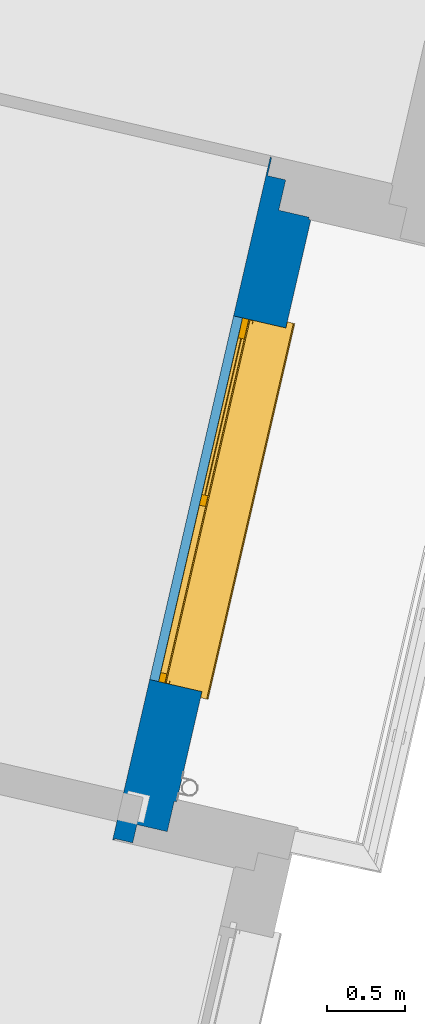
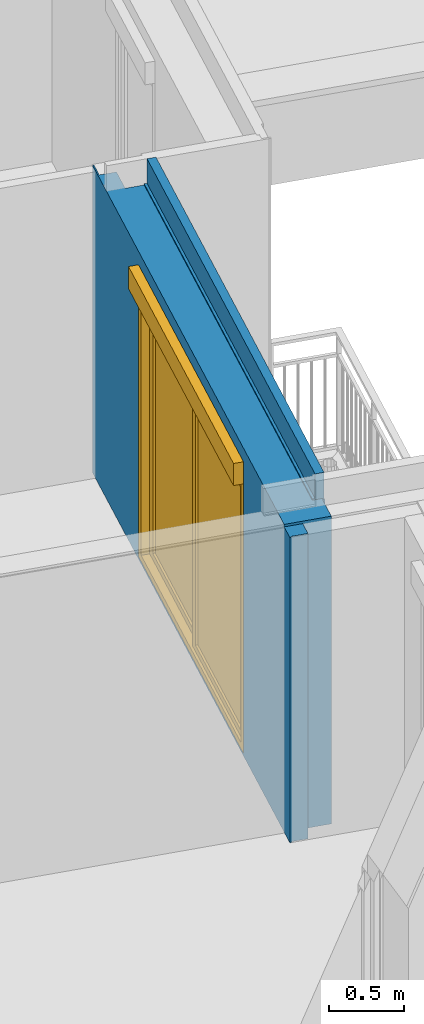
# One storey, part 20 of 90: 1 wall, 1 window, 1 opening.
"""IFC2X3 building model written with IfcOpenShell, lengths in metres."""

from ifc_helpers import new_model, entity, si_unit, converted_unit, derived_unit, money_unit, direction, frame, origin_with_axes, place, context, subcontext, project, spatial, open_shell, faceted_brep, surface_model, source, transform, mapped, material, material_list, type_object, element, fill, save


model = new_model("IFC2X3")

# Units and contexts
model_context = context("Model", 3, precision=1e-05, world=origin_with_axes(), true_north=direction((0.0, 1.0)))
body_context = subcontext(model_context, "Body", "Model", "MODEL_VIEW")
ifc_project = project(units=[si_unit("LENGTHUNIT", "METRE"), si_unit("AREAUNIT", "SQUARE_METRE"), si_unit("VOLUMEUNIT", "CUBIC_METRE"), converted_unit("PLANEANGLEUNIT", "DEGREE", entity("IfcPlaneAngleMeasure", 0.0174532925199), si_unit("PLANEANGLEUNIT", "RADIAN"), dimensions=[0, 0, 0, 0, 0, 0, 0]), si_unit("SOLIDANGLEUNIT", "STERADIAN"), money_unit("EUR"), converted_unit("TIMEUNIT", "Year", entity("IfcTimeMeasure", 31556926.0), si_unit("TIMEUNIT", "SECOND"), dimensions=[0, 0, 1, 0, 0, 0, 0]), si_unit("MASSUNIT", "GRAM", prefix="KILO"), si_unit("THERMODYNAMICTEMPERATUREUNIT", "DEGREE_CELSIUS"), si_unit("LUMINOUSINTENSITYUNIT", "LUMEN"), si_unit("ENERGYUNIT", "JOULE", prefix="MEGA"), derived_unit("THERMALCONDUCTANCEUNIT", [(si_unit("POWERUNIT", "WATT"), 1), (si_unit("LENGTHUNIT", "METRE"), -1), (si_unit("THERMODYNAMICTEMPERATUREUNIT", "KELVIN"), -1)]), derived_unit("SPECIFICHEATCAPACITYUNIT", [(si_unit("ENERGYUNIT", "JOULE"), 1), (si_unit("MASSUNIT", "GRAM", prefix="KILO"), -1), (si_unit("THERMODYNAMICTEMPERATUREUNIT", "KELVIN"), -1)]), derived_unit("MASSDENSITYUNIT", [(si_unit("MASSUNIT", "GRAM", prefix="KILO"), 1), (si_unit("VOLUMEUNIT", "CUBIC_METRE"), -1)])], contexts=[model_context])

# Site, building, storey
site_placement = place(None, origin_with_axes())
site = spatial("IfcSite", under=ifc_project, at=site_placement, Name="Site", CompositionType="ELEMENT")
building_placement = place(site_placement, origin_with_axes())
building = spatial("IfcBuilding", under=site, at=building_placement, Name="Bâtiment", CompositionType="ELEMENT")
storey_placement = place(building_placement, frame((0.0, 0.0, 2.72), z_axis=(0.0, 0.0, 1.0), x_axis=(1.0, 0.0, 0.0)))
storey = spatial("IfcBuildingStorey", under=building, at=storey_placement, Name="R+1", CompositionType="ELEMENT", Elevation=2.72)

# Wall, opening, window
ifc_material_1 = material(Name="Finition ext - Crépis")
ifc_material_2 = material(Name="Béton cellulaire")
ifc_material_3 = material(Name="Mortier")
ifc_material_4 = material(Name="Bloc ELITHERM")
ifc_material_5 = material(Name="Isolation - Polystyrène extrudé")
ifc_material_6 = material(Name="Finition int - Plaque de plâtre")
ifc_material_list = material_list([ifc_material_1, ifc_material_2, ifc_material_3, ifc_material_4, ifc_material_5, ifc_material_6])
wall_type = type_object("IfcWallType", Name="Mur ALKERN + planelle 21 345 x 2720", PredefinedType="USERDEFINED")
wall_placement = place(storey_placement, frame((-7.01710271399, -13.9285111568, 0.0), z_axis=(0.0, 0.0, 1.0), x_axis=(-0.224876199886, -0.97438734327, 0.0)))
wall = element("IfcWall", 1, at=wall_placement, inside=storey, type_object=wall_type, material=ifc_material_list, Name="Mue bloc ALKERN isolé", ObjectType="SOLIDWALL", context=body_context, shape_type="Brep", body=[
    faceted_brep([(0.712503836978, -4.04570155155e-10, 0.02), (0.712503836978, 0.0, 0.0), (0.0, 0.0, 0.0), (0.0, -1.97838856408e-08, 2.51000000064), (-0.015, -4.04569266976e-10, 2.51000000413), (-0.015, -4.04568378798e-10, 2.71999999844), (3.82500767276, -1.97838869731e-08, 2.71999999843), (3.82500767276, -1.97838869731e-08, 2.51), (3.84000767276, -1.97838869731e-08, 2.51000000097), (3.84000767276, 0.0, 0.0), (3.11250383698, 0.0, 0.0), (3.11250383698, -4.04570155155e-10, 0.02), (3.11250383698, -4.04570155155e-10, 2.22), (0.712503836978, -4.04569266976e-10, 2.22), (0.712503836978, -0.0149999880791, 0.02), (0.712503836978, -0.0149999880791, 0.0), (0.712503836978, -0.0149999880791, 2.22), (0.0, -0.0149999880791, 0.0), (0.0, -0.0149999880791, 2.51000000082), (-0.0149999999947, -0.0149999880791, 2.51000000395), (-0.0149999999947, -0.0149999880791, 2.71999999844), (3.82500767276, -0.0149999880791, 2.71999999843), (3.82500767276, -0.0149999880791, 2.51000000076), (3.84000767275, -0.0149999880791, 2.51000000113), (3.84000767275, -0.0149999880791, 0.0), (3.11250383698, -0.0149999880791, 0.0), (3.11250383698, -0.0149999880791, 0.02), (3.11250383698, -0.0149999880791, 2.22)], [[[0, 1, 2, 3, 4, 5, 6, 7, 8, 9, 10, 11, 12, 13]], [[14, 15, 1, 0, 13, 16]], [[1, 15, 17, 2]], [[2, 17, 18, 3]], [[4, 3, 18, 19]], [[5, 4, 19, 20]], [[20, 21, 6, 5]], [[7, 6, 21, 22]], [[8, 7, 22, 23]], [[8, 23, 24, 9]], [[25, 10, 9, 24]], [[11, 10, 25, 26, 27, 12]], [[12, 27, 16, 13]], [[15, 14, 16, 27, 26, 25, 24, 23, 22, 21, 20, 19, 18, 17]]]),
    faceted_brep([(-0.0149999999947, -0.015, 2.51999999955), (-0.0149999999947, -0.015, 2.71999999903), (3.82500767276, -0.015, 2.71999999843), (3.82500767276, -0.015, 2.51999999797), (-0.0149999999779, -0.0629999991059, 2.71999999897), (-0.0149999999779, -0.0629999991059, 2.51999999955), (3.82500767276, -0.0629999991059, 2.71999999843), (3.82500767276, -0.0629999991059, 2.51999999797)], [[[0, 1, 2, 3]], [[4, 1, 0, 5]], [[1, 4, 6, 2]], [[7, 3, 2, 6]], [[5, 0, 3, 7]], [[4, 5, 7, 6]]]),
    faceted_brep([(-0.0149999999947, -0.015, 2.51), (-0.0149999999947, -0.015, 2.52), (3.82500767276, -0.015, 2.51999999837), (3.82500767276, -0.015, 2.51000000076), (-0.0149999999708, -0.0830000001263, 2.52), (-0.0149999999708, -0.0830000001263, 2.51), (3.82500767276, -0.0830000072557, 2.51999998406), (3.82500767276, -0.0830000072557, 2.51000000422)], [[[0, 1, 2, 3]], [[4, 1, 0, 5]], [[1, 4, 6, 2]], [[7, 3, 2, 6]], [[5, 0, 3, 7]], [[4, 5, 7, 6]]]),
    faceted_brep([(0.712503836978, -0.015, 0.02), (0.712503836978, -0.015, 0.0), (-0.0149999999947, -0.015, 0.0), (-0.0149999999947, -0.015, 2.51000000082), (4.04000768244, -0.015, 2.5100000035), (4.04000768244, -0.015, 0.0), (3.11250383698, -0.015, 0.0), (3.11250383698, -0.015, 0.02), (3.11250383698, -0.015, 2.22), (0.712503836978, -0.015, 2.22), (0.712503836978, -0.214999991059, 0.02), (0.712503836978, -0.214999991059, 0.0), (0.712503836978, -0.214999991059, 2.22), (-0.0149999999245, -0.214999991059, 0.0), (-0.0149999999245, -0.214999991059, 2.51000000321), (-0.0149999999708, -0.0829999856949, 2.51000000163), (4.04000768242, -0.0829999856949, 2.51000000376), (4.04000768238, -0.214999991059, 0.0), (4.04000768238, -0.214999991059, 2.51000000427), (3.11250383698, -0.214999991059, 0.0), (3.11250383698, -0.214999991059, 0.02), (3.11250383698, -0.214999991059, 2.22)], [[[0, 1, 2, 3, 4, 5, 6, 7, 8, 9]], [[10, 11, 1, 0, 9, 12]], [[1, 11, 13, 2]], [[14, 15, 3, 2, 13]], [[3, 15, 16, 4]], [[17, 5, 4, 16, 18]], [[19, 6, 5, 17]], [[7, 6, 19, 20, 21, 8]], [[8, 21, 12, 9]], [[11, 10, 12, 21, 20, 19, 17, 18, 14, 13]], [[15, 14, 18, 16]]]),
    faceted_brep([(0.712503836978, -0.286, 0.02), (0.712503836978, -0.286, 0.0), (0.712503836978, -0.215000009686, 0.0), (0.712503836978, -0.215000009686, 0.02), (0.712503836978, -0.215, 2.22), (0.712503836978, -0.215, 2.4), (0.712503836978, -0.335000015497, 2.4), (0.712503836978, -0.335000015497, 2.22), (0.712503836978, -0.335000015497, 0.02), (3.11250383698, -0.286, 0.02), (3.11250383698, -0.286, 0.0), (3.11250383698, -0.215000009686, 0.0), (4.16000768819, -0.215000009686, 0.0), (4.16000768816, -0.335000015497, 0.0), (-0.215000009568, -0.335000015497, 0.0), (-0.21500000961, -0.215000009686, 0.0), (3.11250383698, -0.215000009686, 0.02), (3.11250383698, -0.215, 2.22), (3.11250383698, -0.215, 2.4), (-0.21500000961, -0.215000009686, 2.51000000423), (4.04000768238, -0.215000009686, 2.51000000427), (4.04000768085, -0.215000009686, 2.49), (4.16000768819, -0.215000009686, 2.49), (3.11250383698, -0.335000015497, 2.4), (4.04000768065, -0.335000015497, 2.49), (4.04000768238, -0.335000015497, 2.51000000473), (-0.215000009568, -0.335000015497, 2.51000000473), (4.16000768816, -0.335000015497, 2.49), (3.11250383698, -0.335000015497, 2.22), (3.11250383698, -0.335000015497, 0.02)], [[[0, 1, 2, 3, 4, 5, 6, 7, 8]], [[0, 9, 10, 1]], [[10, 11, 12, 13, 14, 15, 2, 1]], [[11, 16, 17, 18, 5, 4, 3, 2, 15, 19, 20, 21, 22, 12]], [[18, 23, 6, 5]], [[24, 25, 26, 14, 13, 27], [8, 7, 6, 23, 28, 29]], [[9, 0, 8, 29]], [[16, 11, 10, 9, 29, 28, 23, 18, 17]], [[22, 27, 13, 12]], [[14, 26, 19, 15]], [[25, 20, 19, 26]], [[21, 20, 25, 24]], [[22, 21, 24, 27]]]),
    faceted_brep([(4.04000768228, -0.335000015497, 2.49), (4.17000764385, -0.335000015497, 2.49), (4.17000764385, -0.335000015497, 0.0), (-0.33500001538, -0.335000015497, 0.0), (-0.33500001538, -0.335000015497, 2.51000000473), (4.04000768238, -0.335000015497, 2.51000000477), (3.11250383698, -0.335000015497, 2.22), (3.11250383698, -0.335000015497, 2.4), (0.712503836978, -0.335000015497, 2.4), (0.712503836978, -0.335000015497, 2.22), (0.712503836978, -0.335000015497, 0.02), (3.11250383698, -0.335000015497, 0.02), (4.04000768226, -0.344999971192, 2.49), (4.17000764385, -0.34499998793, 2.49), (4.17000764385, -0.34499998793, 0.0), (-0.335000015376, -0.344999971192, 0.0), (-0.335000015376, -0.344999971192, 2.51000000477), (4.04000768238, -0.344999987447, 2.51000000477), (3.11250383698, -0.344999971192, 2.22), (3.11250383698, -0.344999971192, 2.4), (0.712503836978, -0.344999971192, 2.4), (0.712503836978, -0.344999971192, 2.22), (0.712503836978, -0.344999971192, 0.02), (3.11250383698, -0.344999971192, 0.02)], [[[0, 1, 2, 3, 4, 5], [6, 7, 8, 9, 10, 11]], [[12, 13, 1, 0]], [[14, 2, 1, 13]], [[3, 2, 14, 15]], [[4, 3, 15, 16]], [[4, 16, 17, 5]], [[17, 12, 0, 5]], [[7, 6, 18, 19]], [[8, 7, 19, 20]], [[9, 8, 20, 21]], [[9, 21, 22, 10]], [[10, 22, 23, 11]], [[18, 6, 11, 23]], [[12, 17, 16, 15, 14, 13], [19, 18, 23, 22, 21, 20]]]),
])
opening_placement = place(wall_placement, frame((1.91250383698, 0.0, 0.02), z_axis=(0.0, 0.0, 1.0), x_axis=(1.0, 0.0, 0.0)))
opening = element("IfcOpeningElement", 2, at=opening_placement, cuts=wall, Name="MEN 62", context=body_context, shape_type="Brep", body=[
    faceted_brep([(-1.2, -0.245, 0.0), (1.2, -0.245, 0.0), (1.2, -0.83499998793, 0.0), (-1.2, -0.83499998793, 0.0), (-1.2, -0.245, 2.2), (1.2, -0.245, 2.2), (1.2, -0.83499998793, 2.2), (-1.2, -0.83499998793, 2.2)], [[[0, 1, 2, 3]], [[0, 4, 5, 1]], [[1, 5, 6, 2]], [[3, 2, 6, 7]], [[4, 0, 3, 7]], [[5, 4, 7, 6]]]),
    faceted_brep([(-1.2, -0.245, 0.0), (-1.2, -0.245, 2.2), (-1.2, 0.34499998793, 2.2), (-1.2, 0.34499998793, 0.0), (1.2, -0.245, 0.0), (1.2, -0.245, 2.2), (1.2, 0.34499998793, 2.2), (1.2, 0.34499998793, 0.0)], [[[0, 1, 2, 3]], [[0, 4, 5, 1]], [[1, 5, 6, 2]], [[3, 2, 6, 7]], [[4, 0, 3, 7]], [[5, 4, 7, 6]]]),
    faceted_brep([(-1.2, -0.245, 0.0), (-1.2, -0.245, 2.2), (-1.2, 0.34499998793, 2.2), (-1.2, 0.34499998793, 0.0), (1.2, -0.245, 0.0), (1.2, -0.245, 2.2), (1.2, 0.34499998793, 2.2), (1.2, 0.34499998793, 0.0)], [[[0, 1, 2, 3]], [[0, 4, 5, 1]], [[1, 5, 6, 2]], [[3, 2, 6, 7]], [[4, 0, 3, 7]], [[5, 4, 7, 6]]]),
    faceted_brep([(-1.2, -0.215, 2.2), (1.2, -0.215, 2.2), (1.2, -0.80499998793, 2.2), (-1.2, -0.80499998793, 2.2), (-1.2, -0.215, 2.38), (1.2, -0.215, 2.38), (1.2, -0.80499998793, 2.38), (-1.2, -0.80499998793, 2.38)], [[[0, 1, 2, 3]], [[0, 4, 5, 1]], [[1, 5, 6, 2]], [[3, 2, 6, 7]], [[4, 0, 3, 7]], [[5, 4, 7, 6]]]),
    faceted_brep([(-1.2, -0.286, 0.0), (1.2, -0.286, 0.0), (1.2, 0.30399998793, 0.0), (-1.2, 0.30399998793, 0.0), (-1.2, -0.286, -0.06), (1.2, -0.286, -0.06), (1.2, 0.30399998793, -0.06), (-1.2, 0.30399998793, -0.06)], [[[0, 1, 2, 3]], [[0, 4, 5, 1]], [[1, 5, 6, 2]], [[3, 2, 6, 7]], [[4, 0, 3, 7]], [[5, 4, 7, 6]]]),
])
window_style = type_object("IfcWindowStyle", Name="Baie générique 2017 v2", ConstructionType="NOTDEFINED", OperationType="NOTDEFINED", ParameterTakesPrecedence=False, Sizeable=False)
shared_shape = source(origin_with_axes(), body_context, "Body", "SurfaceModel", [
    faceted_brep([(1.2, 0.1, 0.0), (1.2, 0.0, 0.0), (-1.2, 0.0, 0.0), (-1.2, 0.1, 0.0), (1.2, 0.1, 2.2), (1.2, 0.0, 2.2), (-1.2, 0.0, 2.2), (1.14, 0.0, 0.05), (-1.14, 0.0, 0.05), (-1.14, 0.0, 2.15), (1.14, 0.0, 2.15), (-1.2, 0.1, 2.2), (1.14, 0.1, 0.05), (1.14, 0.1, 2.15), (-1.14, 0.1, 2.15), (-1.14, 0.1, 0.05)], [[[0, 1, 2, 3]], [[4, 5, 1, 0]], [[1, 5, 6, 2], [7, 8, 9, 10]], [[3, 2, 6, 11]], [[0, 3, 11, 4], [12, 13, 14, 15]], [[11, 6, 5, 4]], [[15, 8, 7, 12]], [[14, 9, 8, 15]], [[13, 10, 9, 14]], [[12, 7, 10, 13]]]),
    faceted_brep([(1.14, 0.04, 0.05), (-0.035, 0.04, 0.05), (-0.035, 0.04, 2.15), (1.14, 0.04, 2.15), (0.035, 0.04, 2.08), (0.035, 0.04, 0.1), (1.07, 0.04, 0.1), (1.07, 0.04, 2.08), (-0.035, 0.02, 0.05), (1.14, 0.02, 0.05), (1.14, 0.0, 0.05), (-0.035, 0.0, 0.05), (-0.035, 0.02, 2.15), (-0.035, 0.0, 2.15), (1.14, 0.0, 2.15), (1.14, 0.02, 2.15), (0.035, 0.0, 2.08), (0.035, 0.0, 0.1), (1.07, 0.0, 0.1), (1.07, 0.0, 2.08)], [[[0, 1, 2, 3], [4, 5, 6, 7]], [[8, 1, 0, 9, 10, 11]], [[12, 2, 1, 8, 11, 13]], [[13, 14, 15, 3, 2, 12]], [[14, 10, 9, 0, 3, 15]], [[4, 16, 17, 5]], [[17, 18, 6, 5]], [[18, 19, 7, 6]], [[7, 19, 16, 4]], [[13, 11, 10, 14], [17, 16, 19, 18]]]),
    surface_model("IfcShellBasedSurfaceModel", [(1.14, 0.04, 0.05), (-0.035, 0.04, 0.05), (-0.035, 0.04, 2.15), (1.14, 0.04, 2.15), (1.07, 0.04, 0.1), (1.07, 0.04, 2.08), (0.035, 0.04, 2.08), (0.035, 0.04, 0.1)], [open_shell([[[0, 1, 2, 3], [4, 5, 6, 7]]])]),
    surface_model("IfcShellBasedSurfaceModel", [(1.14, 0.0, 0.05), (-0.035, 0.0, 0.05), (-0.035, 0.0, 2.15), (1.14, 0.0, 2.15), (1.07, 0.0, 0.1), (1.07, 0.0, 2.08), (0.035, 0.0, 2.08), (0.035, 0.0, 0.1)], [open_shell([[[0, 1, 2, 3], [4, 5, 6, 7]]])]),
    faceted_brep([(1.07, 0.0225, 0.1), (1.07, 0.0175, 0.1), (0.035, 0.0175, 0.1), (0.035, 0.0225, 0.1), (1.07, 0.0225, 2.08), (1.07, 0.0175, 2.08), (0.035, 0.0175, 2.08), (0.035, 0.0225, 2.08)], [[[0, 1, 2, 3]], [[4, 5, 1, 0]], [[1, 5, 6, 2]], [[3, 2, 6, 7]], [[0, 3, 7, 4]], [[7, 6, 5, 4]]]),
    faceted_brep([(0.035, 0.08, 0.05), (-1.14, 0.08, 0.05), (-1.14, 0.08, 2.15), (0.035, 0.08, 2.15), (-1.07, 0.08, 2.08), (-1.07, 0.08, 0.1), (-0.035, 0.08, 0.1), (-0.035, 0.08, 2.08), (-1.14, 0.06, 0.05), (0.035, 0.06, 0.05), (0.035, 0.04, 0.05), (-1.14, 0.04, 0.05), (-1.14, 0.06, 2.15), (-1.14, 0.04, 2.15), (0.035, 0.04, 2.15), (0.035, 0.06, 2.15), (-1.07, 0.04, 2.08), (-1.07, 0.04, 0.1), (-0.035, 0.04, 0.1), (-0.035, 0.04, 2.08)], [[[0, 1, 2, 3], [4, 5, 6, 7]], [[8, 1, 0, 9, 10, 11]], [[12, 2, 1, 8, 11, 13]], [[13, 14, 15, 3, 2, 12]], [[14, 10, 9, 0, 3, 15]], [[4, 16, 17, 5]], [[17, 18, 6, 5]], [[18, 19, 7, 6]], [[7, 19, 16, 4]], [[13, 11, 10, 14], [17, 16, 19, 18]]]),
    surface_model("IfcShellBasedSurfaceModel", [(0.035, 0.08, 0.05), (-1.14, 0.08, 0.05), (-1.14, 0.08, 2.15), (0.035, 0.08, 2.15), (-0.035, 0.08, 0.1), (-0.035, 0.08, 2.08), (-1.07, 0.08, 2.08), (-1.07, 0.08, 0.1)], [open_shell([[[0, 1, 2, 3], [4, 5, 6, 7]]])]),
    surface_model("IfcShellBasedSurfaceModel", [(0.035, 0.04, 0.05), (-1.14, 0.04, 0.05), (-1.14, 0.04, 2.15), (0.035, 0.04, 2.15), (-0.035, 0.04, 0.1), (-0.035, 0.04, 2.08), (-1.07, 0.04, 2.08), (-1.07, 0.04, 0.1)], [open_shell([[[0, 1, 2, 3], [4, 5, 6, 7]]])]),
    faceted_brep([(-0.035, 0.0625, 0.1), (-0.035, 0.0575, 0.1), (-1.07, 0.0575, 0.1), (-1.07, 0.0625, 0.1), (-0.035, 0.0625, 2.08), (-0.035, 0.0575, 2.08), (-1.07, 0.0575, 2.08), (-1.07, 0.0625, 2.08)], [[[0, 1, 2, 3]], [[4, 5, 1, 0]], [[1, 5, 6, 2]], [[3, 2, 6, 7]], [[0, 3, 7, 4]], [[7, 6, 5, 4]]]),
    faceted_brep([(1.2, -0.03, 0.0), (1.2, -0.03, 2.2), (1.175, -0.03, 2.2), (1.175, -0.03, 0.0), (1.2, -0.002, 0.0), (1.2, -0.002, 2.2), (1.175, -0.002, 2.2), (1.175, -0.004, 2.2), (1.198, -0.004, 2.2), (1.198, -0.028, 2.2), (1.175, -0.028, 2.2), (1.175, -0.028, 0.0), (1.198, -0.028, 0.0), (1.198, -0.004, 0.0), (1.175, -0.004, 0.0), (1.175, -0.002, 0.0)], [[[0, 1, 2, 3]], [[4, 5, 1, 0]], [[1, 5, 6, 7, 8, 9, 10, 2]], [[3, 2, 10, 11]], [[0, 3, 11, 12, 13, 14, 15, 4]], [[15, 6, 5, 4]], [[14, 7, 6, 15]], [[13, 8, 7, 14]], [[12, 9, 8, 13]], [[11, 10, 9, 12]]]),
    faceted_brep([(-1.2, -0.03, 0.0), (-1.175, -0.03, 0.0), (-1.175, -0.03, 2.2), (-1.2, -0.03, 2.2), (-1.2, -0.002, 0.0), (-1.175, -0.002, 0.0), (-1.175, -0.004, 0.0), (-1.198, -0.004, 0.0), (-1.198, -0.028, 0.0), (-1.175, -0.028, 0.0), (-1.175, -0.028, 2.2), (-1.198, -0.028, 2.2), (-1.198, -0.004, 2.2), (-1.175, -0.004, 2.2), (-1.175, -0.002, 2.2), (-1.2, -0.002, 2.2)], [[[0, 1, 2, 3]], [[0, 4, 5, 6, 7, 8, 9, 1]], [[1, 9, 10, 2]], [[3, 2, 10, 11, 12, 13, 14, 15]], [[4, 0, 3, 15]], [[5, 4, 15, 14]], [[6, 5, 14, 13]], [[7, 6, 13, 12]], [[8, 7, 12, 11]], [[9, 8, 11, 10]]]),
    faceted_brep([(-1.198, -0.028, 2.2), (-1.198, -0.028, 2.378), (1.198, -0.028, 2.378), (1.198, -0.028, 2.2), (-1.198, -0.03, 2.2), (-1.198, -0.03, 2.38), (-1.198, 0.17, 2.38), (-1.198, 0.17, 2.2), (-1.198, 0.168, 2.2), (-1.198, 0.168, 2.378), (1.198, 0.168, 2.378), (1.198, 0.168, 2.2), (1.198, 0.17, 2.2), (1.198, 0.17, 2.38), (1.198, -0.03, 2.38), (1.198, -0.03, 2.2)], [[[0, 1, 2, 3]], [[0, 4, 5, 6, 7, 8, 9, 1]], [[1, 9, 10, 2]], [[3, 2, 10, 11, 12, 13, 14, 15]], [[4, 0, 3, 15]], [[5, 4, 15, 14]], [[6, 5, 14, 13]], [[7, 6, 13, 12]], [[8, 7, 12, 11]], [[9, 8, 11, 10]]]),
    faceted_brep([(-1.198, 0.0724697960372, 2.27436337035), (-1.198, 0.0555495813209, 2.27050144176), (-1.198, 0.041980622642, 2.28132232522), (-1.198, 0.041980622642, 2.29867767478), (-1.198, 0.0555495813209, 2.30949855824), (-1.198, 0.0724697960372, 2.30563662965), (-1.198, 0.08, 2.29), (1.198, 0.0724697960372, 2.27436337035), (1.198, 0.0555495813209, 2.27050144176), (1.198, 0.041980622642, 2.28132232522), (1.198, 0.041980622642, 2.29867767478), (1.198, 0.0555495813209, 2.30949855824), (1.198, 0.0724697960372, 2.30563662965), (1.198, 0.08, 2.29)], [[[0, 1, 2, 3, 4, 5, 6]], [[1, 0, 7, 8]], [[2, 1, 8, 9]], [[3, 2, 9, 10]], [[4, 3, 10, 11]], [[5, 4, 11, 12]], [[6, 5, 12, 13]], [[0, 6, 13, 7]], [[7, 13, 12, 11, 10, 9, 8]]]),
    faceted_brep([(-1.188, 0.130275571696, 2.25615706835), (-1.188, 0.108632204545, 2.22901714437), (-1.188, 0.0773566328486, 2.21395562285), (-1.188, 0.0426433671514, 2.21395562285), (-1.188, 0.011367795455, 2.22901714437), (-1.188, -0.0102755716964, 2.25615706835), (-1.188, -0.018, 2.29), (-1.188, -0.0102755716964, 2.32384293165), (-1.188, 0.011367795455, 2.35098285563), (-1.188, 0.0426433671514, 2.36604437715), (-1.188, 0.0773566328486, 2.36604437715), (-1.188, 0.108632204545, 2.35098285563), (-1.188, 0.130275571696, 2.32384293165), (-1.188, 0.138, 2.29), (1.188, 0.130275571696, 2.25615706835), (1.188, 0.108632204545, 2.22901714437), (1.188, 0.0773566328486, 2.21395562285), (1.188, 0.0426433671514, 2.21395562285), (1.188, 0.011367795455, 2.22901714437), (1.188, -0.0102755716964, 2.25615706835), (1.188, -0.018, 2.29), (1.188, -0.0102755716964, 2.32384293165), (1.188, 0.011367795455, 2.35098285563), (1.188, 0.0426433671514, 2.36604437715), (1.188, 0.0773566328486, 2.36604437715), (1.188, 0.108632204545, 2.35098285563), (1.188, 0.130275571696, 2.32384293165), (1.188, 0.138, 2.29)], [[[0, 1, 2, 3, 4, 5, 6, 7, 8, 9, 10, 11, 12, 13]], [[1, 0, 14, 15]], [[2, 1, 15, 16]], [[3, 2, 16, 17]], [[4, 3, 17, 18]], [[5, 4, 18, 19]], [[6, 5, 19, 20]], [[7, 6, 20, 21]], [[8, 7, 21, 22]], [[9, 8, 22, 23]], [[10, 9, 23, 24]], [[11, 10, 24, 25]], [[12, 11, 25, 26]], [[13, 12, 26, 27]], [[0, 13, 27, 14]], [[14, 27, 26, 25, 24, 23, 22, 21, 20, 19, 18, 17, 16, 15]]]),
    faceted_brep([(-1.2, 0.17, 2.2), (-1.2, 0.17, 2.38), (-1.198, 0.17, 2.38), (-1.198, 0.17, 2.2), (-1.2, -0.03, 2.2), (-1.2, -0.03, 2.38), (-1.198, -0.03, 2.38), (-1.198, -0.03, 2.2)], [[[0, 1, 2, 3]], [[0, 4, 5, 1]], [[1, 5, 6, 2]], [[3, 2, 6, 7]], [[4, 0, 3, 7]], [[5, 4, 7, 6]]]),
    faceted_brep([(1.198, 0.17, 2.2), (1.198, 0.17, 2.38), (1.2, 0.17, 2.38), (1.2, 0.17, 2.2), (1.198, -0.03, 2.2), (1.198, -0.03, 2.38), (1.2, -0.03, 2.38), (1.2, -0.03, 2.2)], [[[0, 1, 2, 3]], [[0, 4, 5, 1]], [[1, 5, 6, 2]], [[3, 2, 6, 7]], [[4, 0, 3, 7]], [[5, 4, 7, 6]]]),
    faceted_brep([(-1.198, -0.004, 2.2), (-1.198, 0.168, 2.2), (1.198, 0.168, 2.2), (1.198, -0.004, 2.2), (-1.198, -0.004, 2.202), (-1.198, 0.168, 2.202), (1.198, 0.168, 2.202), (1.198, -0.004, 2.202)], [[[0, 1, 2, 3]], [[0, 4, 5, 1]], [[1, 5, 6, 2]], [[3, 2, 6, 7]], [[4, 0, 3, 7]], [[5, 4, 7, 6]]]),
    faceted_brep([(-1.188, -0.006, 2.2), (-1.188, -0.006, 2.29), (1.188, -0.006, 2.29), (1.188, -0.006, 2.2), (-1.188, -0.026, 2.2), (-1.188, -0.026, 2.29), (1.188, -0.026, 2.29), (1.188, -0.026, 2.2)], [[[0, 1, 2, 3]], [[1, 0, 4, 5]], [[2, 1, 5, 6]], [[3, 2, 6, 7]], [[4, 0, 3, 7]], [[5, 4, 7, 6]]]),
    faceted_brep([(-1.2, -0.00167949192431, -0.01), (1.2, -0.00167949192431, -0.01), (1.2, 0.0, -0.00373205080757), (1.24, 0.0, -0.00373205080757), (1.24, 0.001, 0.0), (-1.24, 0.001, 0.0), (-1.24, 0.0, -0.00373205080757), (-1.2, 0.0, -0.00373205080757), (-1.2, -0.009, -0.0173205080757), (1.2, -0.009, -0.0173205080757), (1.2, -0.245, -0.02), (1.2, -0.245, -0.06), (1.2, 0.0, -0.06), (1.2, -0.019, -0.02), (1.24, 0.0, -0.06), (1.24, 0.041, -0.06), (1.24, 0.041, 0.0), (-1.24, 0.041, 0.0), (-1.24, 0.041, -0.06), (-1.24, 0.0, -0.06), (-1.2, 0.0, -0.06), (-1.2, -0.245, -0.06), (-1.2, -0.245, -0.02), (-1.2, -0.019, -0.02), (1.24, -0.245, -0.02), (1.24, -0.245, -0.06), (1.24, -0.275, -0.06), (-1.24, -0.275, -0.06), (-1.24, -0.245, -0.06), (-1.24, -0.245, -0.02), (-1.24, -0.285, -0.02), (1.24, -0.285, -0.02), (1.24, -0.295, -0.03), (1.24, -0.295, -0.06), (1.24, -0.285, -0.06), (1.24, -0.285, -0.05), (1.24, -0.275, -0.05), (1.24, -0.292071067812, -0.0229289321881), (-1.24, -0.275, -0.05), (-1.24, -0.285, -0.05), (-1.24, -0.285, -0.06), (-1.24, -0.295, -0.06), (-1.24, -0.295, -0.03), (-1.24, -0.292071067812, -0.0229289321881)], [[[0, 1, 2, 3, 4, 5, 6, 7]], [[8, 9, 1, 0]], [[10, 11, 12, 2, 1, 9, 13]], [[3, 2, 12, 14]], [[4, 3, 14, 15, 16]], [[16, 17, 5, 4]], [[6, 5, 17, 18, 19]], [[19, 20, 7, 6]], [[7, 20, 21, 22, 23, 8, 0]], [[23, 13, 9, 8]], [[10, 24, 25, 11]], [[21, 20, 19, 18, 15, 14, 12, 11, 25, 26, 27, 28]], [[22, 29, 30, 31, 24, 10, 13, 23]], [[15, 18, 17, 16]], [[22, 21, 28, 29]], [[32, 33, 34, 35, 36, 26, 25, 24, 31, 37]], [[36, 38, 27, 26]], [[28, 27, 38, 39, 40, 41, 42, 43, 30, 29]], [[31, 30, 43, 37]], [[32, 42, 41, 33]], [[33, 41, 40, 34]], [[34, 40, 39, 35]], [[35, 39, 38, 36]], [[37, 43, 42, 32]]]),
])
window_placement = place(opening_placement, frame((1.2, 0.0, 0.0), z_axis=(0.0, 0.0, 1.0), x_axis=(-1.0, 0.0, 0.0)))
window = element("IfcWindow", 3, at=window_placement, inside=storey, type_object=window_style, Name="MEN 62", ObjectType="WINDOW", OverallHeight=2.2, OverallWidth=2.4, context=body_context, shape_type="MappedRepresentation", body=[
    mapped(shared_shape, transform((1.2, 0.245, 0.0))),
])
fill(opening, window)

save(model, "model.ifc")
